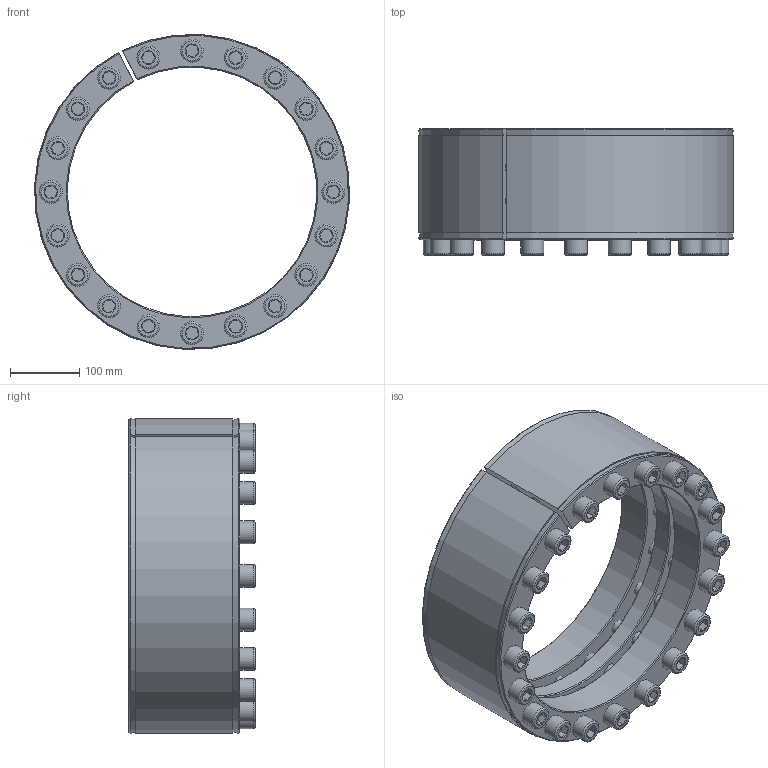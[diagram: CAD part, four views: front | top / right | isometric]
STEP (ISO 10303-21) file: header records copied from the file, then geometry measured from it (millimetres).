
FILE_DESCRIPTION( ( 'Unknown' ), '1' );
FILE_NAME( 'K:/Konstruktion/cad/KBS 18/KBS 18/KBS 18 - 360 x 455.stp', 'Unknown', ( 'Unknown' ), ( 'Unknown' ), 'PSStep 16.0.42', 'Unknown', ' ' );
FILE_SCHEMA( ( 'AUTOMOTIVE_DESIGN { 1 0 10303 214 1 1 1 1 }' ) );
Length unit declared in the file: millimetre
Products named in the file (3): Assem1; ISO EN DIN 4762 M22x140; KBS 18 - 360 x 455
Assembly tree (21 placements, depth 2):
  Assem1
    ISO EN DIN 4762 M22x140  x20
    KBS 18 - 360 x 455
Bounding box: 454.42 x 182 x 454.26 mm (x, y, z)
Volume: 8564539 mm3; surface area: 1141954.4 mm2
Topology: 21 solids, 21 shells, 586 faces, 1138 edges, 674 vertices
Faces by surface type: plane 250, cone 152, cylinder 144, torus 40
Full cylindrical faces by diameter (mm): 18 x20, 19.294 x20, 22 x40, 24 x40, 33 x20
Entity records: 4590 total; most frequent: CARTESIAN_POINT 693, DIRECTION 624, ORIENTED_EDGE 454, EDGE_LOOP 302, AXIS2_PLACEMENT_3D 294, EDGE_CURVE 227, VERTEX_POINT 191, FACE_OUTER_BOUND 177
